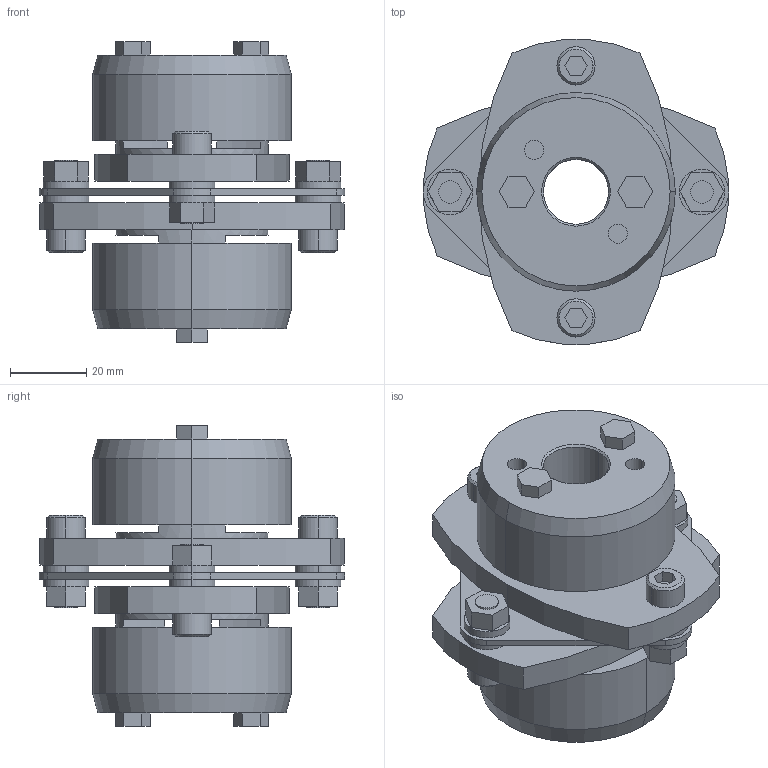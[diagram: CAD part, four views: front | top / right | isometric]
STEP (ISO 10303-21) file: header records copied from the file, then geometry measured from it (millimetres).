
FILE_DESCRIPTION((''),'2;1');
FILE_NAME('LCS-80T7-17×18.stp','2011-09-12T14:49:42',(''),(''),'AutoCAD STEP 2000i','AutoCAD 2000i',', , ');
FILE_SCHEMA(('CONFIG_CONTROL_DESIGN'));
Length unit declared in the file: millimetre
Products named in the file (5): LCS-80T7-17×17; 忣兜1; LC80T7-T017-1; LC80T7-T017; LCS80-ITA
Assembly tree (4 placements, depth 2):
  LCS-80T7-17×17
    忣兜1
    LC80T7-T017-1
    LC80T7-T017
    LCS80-ITA
Bounding box: 80 x 79.95 x 78.75 mm (x, y, z)
Volume: 143195 mm3; surface area: 41158.4 mm2
Topology: 1 solids, 1 shells, 218 faces, 532 edges, 348 vertices
Faces by surface type: plane 118, cylinder 80, cone 20
Entity records: 6619 total; most frequent: DIRECTION 1174, CARTESIAN_POINT 1103, ORIENTED_EDGE 1064, EDGE_CURVE 532, AXIS2_PLACEMENT_3D 419, VERTEX_POINT 348, VECTOR 336, LINE 336
